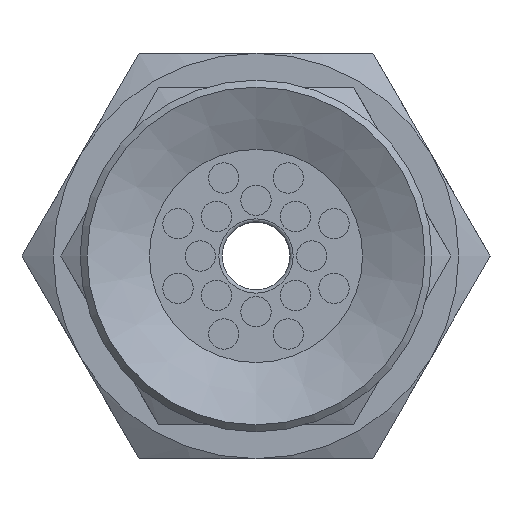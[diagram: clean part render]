
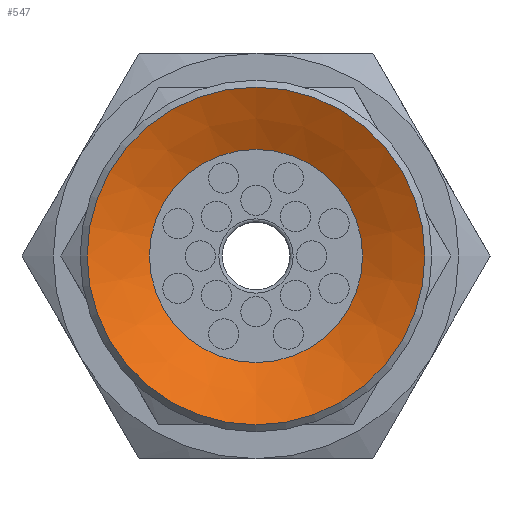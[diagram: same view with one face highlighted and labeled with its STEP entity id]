
A CAD part, front view. The second image highlights one B-rep face of the part: STEP entity #547.
In plain terms, the highlighted conical face has half-angle 64 degrees and reference radius 5 mm.
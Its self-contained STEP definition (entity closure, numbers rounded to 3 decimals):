
#547=ADVANCED_FACE('',(#843,#844),#845,.F.);
#843=FACE_BOUND('',#1218,.T.);
#844=FACE_OUTER_BOUND('',#1219,.T.);
#845=CONICAL_SURFACE('',#1220,5.0,1.117);
#1218=EDGE_LOOP('',(#1954));
#1219=EDGE_LOOP('',(#1955));
#1220=AXIS2_PLACEMENT_3D('',#1956,#1957,#1958);
#1954=ORIENTED_EDGE('',*,*,#2352,.T.);
#1955=ORIENTED_EDGE('',*,*,#2353,.F.);
#1956=CARTESIAN_POINT('',(0.0,0.,0.));
#1957=DIRECTION('',(0.0,0.,-1.0));
#1958=DIRECTION('',(0.0,1.0,0.));
#2352=EDGE_CURVE('',#2686,#2686,#2687,.T.);
#2353=EDGE_CURVE('',#2688,#2688,#2689,.T.);
#2686=VERTEX_POINT('',#3380);
#2687=CIRCLE('',#3381,3.155);
#2688=VERTEX_POINT('',#3382);
#2689=CIRCLE('',#3383,5.0);
#3380=CARTESIAN_POINT('',(0.0,-3.155,0.9));
#3381=AXIS2_PLACEMENT_3D('',#3742,#3743,#3744);
#3382=CARTESIAN_POINT('',(0.0,-5.0,0.));
#3383=AXIS2_PLACEMENT_3D('',#3745,#3746,#3747);
#3742=CARTESIAN_POINT('',(0.0,0.,0.9));
#3743=DIRECTION('',(0.0,0.,1.0));
#3744=DIRECTION('',(0.0,-1.0,0.));
#3745=CARTESIAN_POINT('',(0.0,0.,0.));
#3746=DIRECTION('',(0.0,0.,1.0));
#3747=DIRECTION('',(0.0,-1.0,0.));
